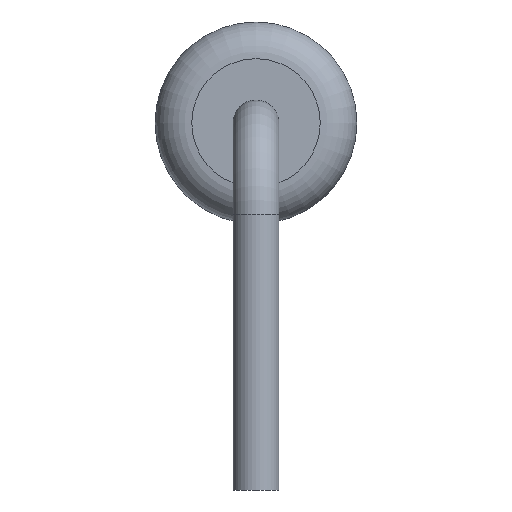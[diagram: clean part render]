
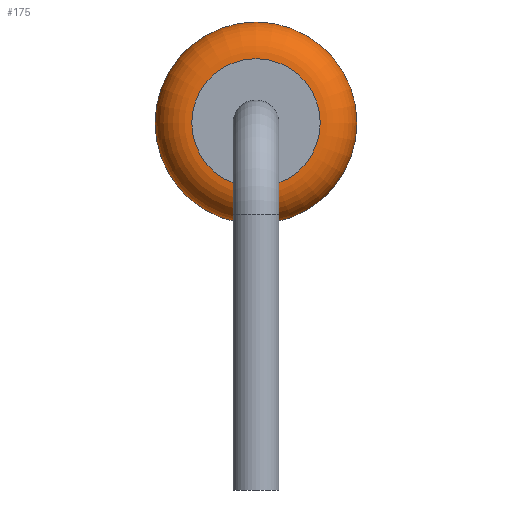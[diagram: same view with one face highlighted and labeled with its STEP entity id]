
A CAD part, left-side view. The second image highlights one B-rep face of the part: STEP entity #175.
In plain terms, the highlighted toroidal (fillet/blend) face has major radius 0.7 mm and minor radius 0.4 mm.
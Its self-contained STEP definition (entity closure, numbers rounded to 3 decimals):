
#175=ADVANCED_FACE('',(#344,#346),#348,.T.);
#344=FACE_OUTER_BOUND('',#345,.T.);
#345=EDGE_LOOP('',(#421));
#346=FACE_OUTER_BOUND('',#347,.T.);
#347=EDGE_LOOP('',(#422));
#348=TOROIDAL_SURFACE('',#349,0.7,0.4);
#349=AXIS2_PLACEMENT_3D('',#350,#351,#352);
#350=CARTESIAN_POINT('',(-2.6,0.,0.));
#351=DIRECTION('',(-1.,0.,0.));
#352=DIRECTION('',(0.,0.,1.));
#421=ORIENTED_EDGE('',*,*,#444,.T.);
#422=ORIENTED_EDGE('',*,*,#445,.F.);
#444=EDGE_CURVE('',#474,#474,#475,.T.);
#445=EDGE_CURVE('',#476,#476,#477,.T.);
#474=VERTEX_POINT('',#546);
#475=CIRCLE('',#547,1.1);
#476=VERTEX_POINT('',#551);
#477=CIRCLE('',#552,0.7);
#546=CARTESIAN_POINT('',(-2.6,0.,1.1));
#547=AXIS2_PLACEMENT_3D('',#548,#549,#550);
#548=CARTESIAN_POINT('',(-2.6,0.,0.));
#549=DIRECTION('',(-1.,0.,0.));
#550=DIRECTION('',(0.,0.,1.));
#551=CARTESIAN_POINT('',(-3.,0.,0.7));
#552=AXIS2_PLACEMENT_3D('',#553,#554,#555);
#553=CARTESIAN_POINT('',(-3.,0.,0.));
#554=DIRECTION('',(-1.,0.,0.));
#555=DIRECTION('',(0.,0.,1.));
